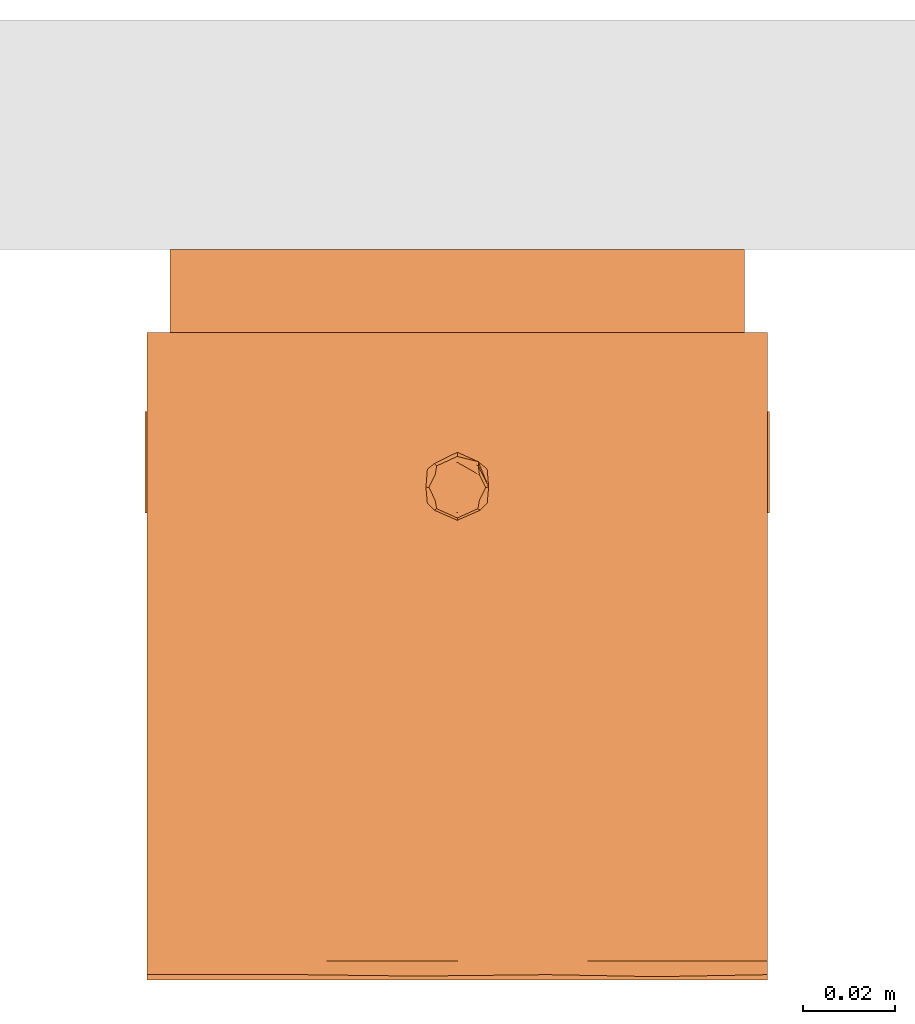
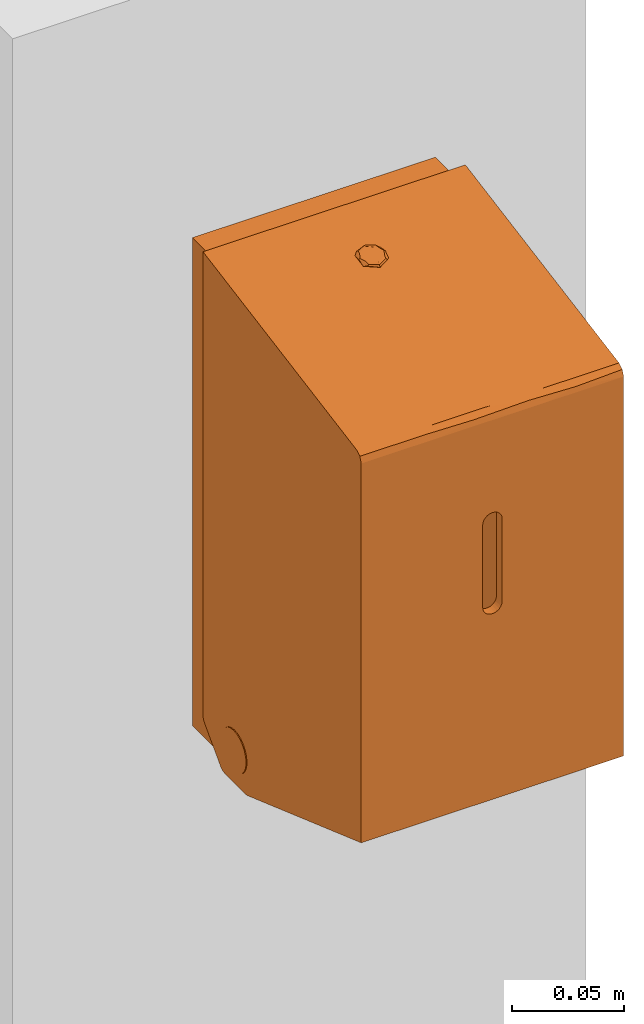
# One storey, part 2 of 2: 1 proxy.
"""IFC2X3 building model written with IfcOpenShell, lengths in millimetres."""

from ifc_helpers import new_model, entity, si_unit, converted_unit, derived_unit, direction, frame, origin, place, context, subcontext, project, spatial, faceted_brep, source, transform, mapped, material, material_list, element, save


model = new_model("IFC2X3")

# Units and contexts
model_context = context("Model", 3, precision=1e-05, world=origin(), true_north=direction((2.0, 6.12303176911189e-17, 1.0)))
context_of_model = context(None, 3, precision=1e-05, world=origin(), true_north=direction((2.0, 6.12303176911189e-17, 1.0)))
body_context = subcontext(model_context, "Body", "Model", "MODEL_VIEW")
ifc_project = project(units=[si_unit("LENGTHUNIT", "METRE", prefix="MILLI"), si_unit("AREAUNIT", "SQUARE_METRE"), si_unit("VOLUMEUNIT", "CUBIC_METRE"), converted_unit("PLANEANGLEUNIT", "DEGREE", entity("IfcRatioMeasure", 0.0174532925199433), si_unit("PLANEANGLEUNIT", "RADIAN"), dimensions=[0, 0, 0, 0, 0, 0, 0]), si_unit("MASSUNIT", "GRAM", prefix="KILO"), si_unit("TIMEUNIT", "SECOND"), si_unit("THERMODYNAMICTEMPERATUREUNIT", "KELVIN"), derived_unit("THERMALTRANSMITTANCEUNIT", [(si_unit("MASSUNIT", "GRAM", prefix="KILO"), 1), (si_unit("THERMODYNAMICTEMPERATUREUNIT", "KELVIN"), -1), (si_unit("TIMEUNIT", "SECOND"), -3)]), derived_unit("VOLUMETRICFLOWRATEUNIT", [(si_unit("LENGTHUNIT", "METRE"), 3), (si_unit("TIMEUNIT", "SECOND"), -1)]), si_unit("POWERUNIT", "WATT")], contexts=[model_context, context_of_model])

# Site, building, storey
site_placement = place(None, origin())
site = spatial("IfcSite", under=ifc_project, at=site_placement, Name="Default", CompositionType="ELEMENT")
building_placement = place(site_placement, origin())
building = spatial("IfcBuilding", under=site, at=building_placement, CompositionType="ELEMENT")
storey_placement = place(building_placement, origin())
storey = spatial("IfcBuildingStorey", under=building, at=storey_placement, Name="Level 1", CompositionType="ELEMENT", Elevation=0.0)

# Proxy
ifc_material = material(Name="Stainless Steel")
ifc_material_list = material_list([ifc_material])
shared_shape = source(origin(), body_context, "Body", "Brep", [
    faceted_brep([(0.0, -51.5096351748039, 264.401026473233), (0.0, -58.912072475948, 263.062287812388), (-6.5146929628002, -55.2108538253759, 263.731657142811), (-6.51469296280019, -47.8084165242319, 265.070395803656), (0.0, -44.1071978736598, 265.739765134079), (6.51469296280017, -55.210853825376, 263.731657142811), (6.51469296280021, -47.8084165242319, 265.070395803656), (-4.95997527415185, -46.5460456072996, 266.049238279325), (-4.82168439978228, -49.0431477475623, 266.405284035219), (0.0, -46.3037848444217, 266.900700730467), (-4.49054296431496, -47.0873695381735, 266.515203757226), (0.0, -45.7660802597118, 266.817430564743), (0.0, -45.0050055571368, 266.699568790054), (-6.83011134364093, -51.7032885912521, 265.471816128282), (-4.49054297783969, -56.3922669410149, 264.832403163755), (-4.95997532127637, -56.7360992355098, 264.206356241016), (0.0, -58.4073020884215, 264.275749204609), (-6.17864354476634, -51.7656063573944, 265.816396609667), (-4.82168439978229, -54.5218735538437, 265.414450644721), (0.0, -57.2612364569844, 264.919033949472), (4.95997526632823, -56.7360992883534, 264.20635623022), (4.58179796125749, -47.0559530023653, 266.474632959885), (4.574059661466, -46.1562989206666, 266.073114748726), (4.49054295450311, -56.3922669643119, 264.832403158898), (6.83011134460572, -51.7032886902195, 265.471816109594), (4.8216843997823, -49.0431477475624, 266.405284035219), (6.17864354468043, -51.7656063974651, 265.816396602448), (4.82168439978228, -54.5218735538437, 265.414450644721), (0.0, -51.782510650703, 265.90986733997)], [[[0, 1, 2]], [[2, 3, 0]], [[3, 4, 0]], [[0, 5, 1]], [[4, 6, 0]], [[5, 0, 6]], [[3, 7, 4]], [[8, 9, 10]], [[10, 9, 11, 12]], [[13, 10, 7]], [[14, 15, 16]], [[10, 17, 8]], [[10, 13, 17]], [[14, 17, 13]], [[1, 16, 15]], [[4, 7, 12]], [[14, 18, 17]], [[18, 14, 19]], [[15, 13, 2]], [[3, 2, 13]], [[19, 14, 16]], [[18, 8, 17]], [[13, 7, 3]], [[7, 10, 12]], [[13, 15, 14]], [[1, 15, 2]], [[5, 20, 1]], [[21, 22, 12]], [[19, 16, 23]], [[24, 23, 20]], [[25, 21, 11]], [[24, 22, 21]], [[23, 24, 26]], [[22, 24, 6]], [[4, 12, 22]], [[12, 11, 21]], [[25, 26, 21]], [[11, 9, 25]], [[27, 19, 23]], [[5, 6, 24]], [[21, 26, 24]], [[25, 27, 26]], [[23, 26, 27]], [[4, 22, 6]], [[20, 23, 16]], [[1, 20, 16]], [[24, 20, 5]], [[18, 19, 28]], [[28, 8, 18]], [[19, 27, 28]], [[25, 28, 27]], [[28, 25, 9]], [[28, 9, 8]]]),
    faceted_brep([(68.0, -36.7536458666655, 10.9451050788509), (68.0, -35.6547412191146, 13.5980955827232), (68.0, -35.2799253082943, 16.445105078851), (68.0, -35.6547412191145, 19.2921145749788), (68.0, -36.7536458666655, 21.9451050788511), (68.0, -38.5017507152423, 24.2232796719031), (68.0, -40.7799253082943, 25.9713845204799), (68.0, -43.4329158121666, 27.0702891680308), (68.0, -46.2799253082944, 27.4451050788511), (68.0, -49.1269348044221, 27.0702891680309), (68.0, -51.7799253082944, 25.9713845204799), (68.0, -54.0580999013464, 24.2232796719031), (68.0, -55.8062047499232, 21.9451050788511), (68.0, -56.9051093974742, 19.2921145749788), (68.0, -57.2799253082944, 16.4451050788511), (68.0, -56.9051093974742, 13.5980955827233), (68.0, -55.8062047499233, 10.945105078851), (68.0, -54.0580999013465, 8.66693048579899), (68.0, -51.7799253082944, 6.91882563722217), (68.0, -49.1269348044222, 5.81992098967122), (68.0, -46.2799253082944, 5.44510507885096), (68.0, -43.4329158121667, 5.8199209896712), (68.0, -40.7799253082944, 6.91882563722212), (68.0, -38.5017507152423, 8.66693048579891), (-68.0, -49.1269348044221, 27.0702891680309), (-68.0, -46.2799253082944, 27.4451050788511), (-68.0, -43.4329158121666, 27.0702891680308), (-68.0, -40.7799253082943, 25.9713845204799), (-68.0, -38.5017507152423, 24.2232796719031), (-68.0, -36.7536458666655, 21.9451050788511), (-68.0, -35.6547412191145, 19.2921145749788), (-68.0, -35.2799253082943, 16.445105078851), (-68.0, -35.6547412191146, 13.5980955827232), (-68.0, -36.7536458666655, 10.9451050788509), (-68.0, -38.5017507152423, 8.66693048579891), (-68.0, -40.7799253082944, 6.91882563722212), (-68.0, -43.4329158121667, 5.8199209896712), (-68.0, -46.2799253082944, 5.44510507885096), (-68.0, -49.1269348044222, 5.81992098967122), (-68.0, -51.7799253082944, 6.91882563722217), (-68.0, -54.0580999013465, 8.66693048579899), (-68.0, -55.8062047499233, 10.945105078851), (-68.0, -56.9051093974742, 13.5980955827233), (-68.0, -57.2799253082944, 16.4451050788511), (-68.0, -56.9051093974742, 19.2921145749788), (-68.0, -55.8062047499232, 21.9451050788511), (-68.0, -54.0580999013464, 24.2232796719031), (-68.0, -51.7799253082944, 25.9713845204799)], [[[0, 1, 2, 3, 4, 5, 6, 7, 8, 9, 10, 11, 12, 13, 14, 15, 16, 17, 18, 19, 20, 21, 22, 23]], [[24, 25, 26, 27, 28, 29, 30, 31, 32, 33, 34, 35, 36, 37, 38, 39, 40, 41, 42, 43, 44, 45, 46, 47]], [[42, 15, 14, 43]], [[41, 16, 15, 42]], [[18, 17, 40, 39]], [[41, 40, 17, 16]], [[19, 18, 39, 38]], [[20, 19, 38, 37]], [[36, 21, 20, 37]], [[35, 22, 21, 36]], [[35, 34, 23, 22]], [[34, 33, 0, 23]], [[1, 32, 31, 2]], [[32, 1, 0, 33]], [[30, 3, 2, 31]], [[29, 4, 3, 30]], [[6, 5, 28, 27]], [[29, 28, 5, 4]], [[7, 6, 27, 26]], [[25, 8, 7, 26]], [[24, 9, 8, 25]], [[12, 45, 44, 13]], [[45, 12, 11, 46]], [[13, 44, 43, 14]], [[9, 24, 47, 10]], [[10, 47, 46, 11]]]),
    faceted_brep([(-62.5, -57.8076369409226, -1.25367202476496), (-67.5, -57.8076369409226, -1.25367202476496), (-67.5, -56.9877050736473, -1.46694307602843), (-62.5, -56.9877050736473, -1.46694307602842), (67.5, -57.8076369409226, -1.25367202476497), (62.5, -57.8076369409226, -1.25367202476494), (62.5, -56.9877050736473, -1.46694307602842), (67.5, -56.9877050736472, -1.46694307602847), (-67.5, -56.1435363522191, -1.5387203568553), (-62.5, -56.1435363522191, -1.5387203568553), (62.5, -56.1435363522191, -1.5387203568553), (67.5, -56.143536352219, -1.5387203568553), (67.5, -159.0, 240.784425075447), (67.5, -159.0, 34.4612796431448), (67.5, -37.3989976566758, -1.5387203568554), (67.5, -35.4376713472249, -1.13798107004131), (67.5, -33.7907372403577, 0.0), (67.5, -19.3917395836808, 15.0104408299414), (67.5, -18.3609644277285, 16.606419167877), (67.5, -18.0, 18.471720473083), (67.5, -18.0, 265.461279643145), (67.5, -18.0, 270.461279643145), (67.5, -154.889820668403, 245.704609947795), (67.5, -157.837258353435, 243.989959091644), (-67.5, -159.0, 240.784425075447), (-67.5, -157.837258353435, 243.989959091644), (-67.5, -154.889820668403, 245.704609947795), (-67.5, -18.0, 270.461279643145), (-67.5, -18.0, 265.461279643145), (-67.5, -18.0, 18.471720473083), (-67.5, -18.3609644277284, 16.606419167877), (-67.5, -19.3917395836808, 15.0104408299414), (-67.5, -33.7907372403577, 0.0), (-67.5, -35.4376713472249, -1.13798107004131), (-67.5, -37.3989976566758, -1.53872035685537), (-67.5, -159.0, 34.4612796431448), (-28.4615560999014, -154.889820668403, 245.704609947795), (0.0, -154.889820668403, 245.704609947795), (28.4615560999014, -154.889820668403, 245.704609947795), (-28.4615550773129, -159.0, 240.784425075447), (-34.0515026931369, -157.83725826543, 243.989959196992), (43.5096123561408, -158.272715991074, 243.381326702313), (19.5192246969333, -157.837258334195, 243.989959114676), (28.4615558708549, -159.0, 240.784425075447), (10.5768890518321, -159.0, 240.784425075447), (-8.94232993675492, -158.150480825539, 243.572526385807), (4.8296291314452, -159.0, 186.755374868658), (5.0, -159.0, 185.461279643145), (4.33012701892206, -159.0, 187.961279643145), (5.0, -159.0, 140.461279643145), (3.5355339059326, -159.0, 188.996813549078), (2.49999999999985, -159.0, 189.791406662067), (1.29409522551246, -159.0, 190.29090877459), (0.0, -159.0, 190.461279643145), (-1.29409522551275, -159.0, 190.29090877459), (-2.50000000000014, -159.0, 189.791406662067), (-3.53553390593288, -159.0, 188.996813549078), (-4.33012701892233, -159.0, 187.961279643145), (-4.82962913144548, -159.0, 186.755374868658), (-5.0, -159.0, 185.461279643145), (-5.0, -159.0, 140.461279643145), (0.0, -159.0, 135.461279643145), (-4.82962913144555, -159.0, 139.167184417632), (-4.3301270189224, -159.0, 137.961279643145), (-3.53553390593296, -159.0, 136.925745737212), (-2.50000000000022, -159.0, 136.131152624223), (-1.29409522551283, -159.0, 135.6316505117), (1.29409522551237, -159.0, 135.6316505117), (4.82962913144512, -159.0, 139.167184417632), (4.33012701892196, -159.0, 137.961279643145), (3.5355339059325, -159.0, 136.925745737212), (2.49999999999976, -159.0, 136.131152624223), (-62.5, -154.0, 32.6965737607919), (62.5, -154.0, 32.6965737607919), (62.5, -42.3989976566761, -1.53872035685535), (-62.5, -42.3989976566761, -1.53872035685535), (-47.9807771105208, -37.3989976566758, -1.53872035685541), (-33.75, -37.3989976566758, -1.53872035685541), (-16.875, -37.3989976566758, -1.53872035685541), (0.0, -37.3989976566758, -1.53872035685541), (16.875, -37.3989976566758, -1.53872035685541), (33.75, -37.3989976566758, -1.53872035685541), (47.9807787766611, -37.3989976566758, -1.53872035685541), (-2.0188000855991, -35.2829526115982, -1.06888076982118), (26.8393809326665, -35.6960653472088, -1.23978635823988), (40.8653903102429, -35.4376713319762, -1.13798106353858), (-39.0384451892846, -33.7907372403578, 0.0), (-43.5096064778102, -35.4376714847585, -1.13798112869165), (-47.9807782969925, -33.7907372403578, 0.0), (-17.6922740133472, -35.3256756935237, -1.0885924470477), (54.1826951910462, -35.1411256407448, -0.999887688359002), (-30.6748780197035, -35.1036907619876, -0.980743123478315), (-24.8076660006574, -33.7907372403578, 0.0), (12.8095355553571, -35.4412163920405, -1.13949121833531), (28.4615565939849, -33.7907372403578, 0.0), (47.9807782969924, -33.7907372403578, 0.0), (-10.5768868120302, -33.7907372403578, 0.0), (8.94233489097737, -33.7907372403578, 0.0), (-47.98077703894, -19.3917395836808, 15.0104408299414), (-28.4615557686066, -19.3917395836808, 15.0104408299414), (-10.5768884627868, -19.3917395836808, 15.0104408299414), (8.94233449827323, -19.3917395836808, 15.0104408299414), (28.4615557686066, -19.3917395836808, 15.0104408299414), (47.98077703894, -19.3917395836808, 15.0104408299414), (-26.1498918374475, -18.312156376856, 16.7327201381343), (-12.1020109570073, -18.3415108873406, 16.6555488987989), (-40.8653848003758, -18.3609644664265, 16.6064190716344), (-54.1826922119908, -18.4550598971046, 16.3876092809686), (-33.75, -18.0, 18.4717204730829), (52.5784534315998, -18.360964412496, 16.6064192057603), (-47.9807787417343, -18.0, 18.4717204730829), (38.2211677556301, -18.3609643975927, 16.6064192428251), (18.7019470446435, -18.3609644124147, 16.6064192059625), (47.9807766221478, -18.0, 18.4717204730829), (28.4615553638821, -18.0, 18.4717204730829), (-16.8750010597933, -18.0, 18.4717204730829), (0.0, -18.0, 18.4717204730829), (4.38440897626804, -18.3624612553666, 16.6027008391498), (14.2307787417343, -18.0, 18.4717204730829), (62.5, -23.0, 18.4717204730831), (62.5, -37.3989976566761, 3.46127964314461), (62.5, -154.0, 240.784425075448), (62.5, -23.0, 264.475914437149), (-62.5, -37.3989976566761, 3.46127964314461), (-62.5, -23.0, 18.4717204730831), (-62.5, -23.0, 264.475914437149), (-62.5, -154.0, 240.784425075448), (5.0, -154.0, 185.461279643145), (4.8296291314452, -154.0, 186.755374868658), (5.0, -154.0, 140.461279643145), (4.33012701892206, -154.0, 187.961279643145), (3.5355339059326, -154.0, 188.996813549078), (2.49999999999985, -154.0, 189.791406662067), (1.29409522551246, -154.0, 190.29090877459), (0.0, -154.0, 190.461279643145), (-1.29409522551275, -154.0, 190.29090877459), (-2.50000000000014, -154.0, 189.791406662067), (-3.53553390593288, -154.0, 188.996813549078), (-4.33012701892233, -154.0, 187.961279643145), (-4.82962913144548, -154.0, 186.755374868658), (-5.0, -154.0, 185.461279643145), (-5.0, -154.0, 140.461279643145), (-4.82962913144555, -154.0, 139.167184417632), (-4.33012701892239, -154.0, 137.961279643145), (-3.53553390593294, -154.0, 136.925745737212), (-2.50000000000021, -154.0, 136.131152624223), (-1.29409522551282, -154.0, 135.6316505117), (0.0, -154.0, 135.461279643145), (1.29409522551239, -154.0, 135.6316505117), (2.49999999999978, -154.0, 136.131152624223), (3.53553390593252, -154.0, 136.925745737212), (4.33012701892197, -154.0, 137.961279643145), (4.82962913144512, -154.0, 139.167184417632)], [[[0, 1, 2, 3]], [[4, 5, 6, 7]], [[2, 8, 9, 3]], [[6, 10, 11, 7]], [[12, 13, 4, 7, 11, 14, 15, 16, 17, 18, 19, 20, 21, 22, 23]], [[24, 25, 26, 27, 28, 29, 30, 31, 32, 33, 34, 8, 2, 1, 35]], [[22, 21, 27, 26, 36, 37, 38]], [[24, 39, 40]], [[22, 38, 41]], [[41, 38, 42]], [[43, 42, 44]], [[45, 39, 44]], [[36, 40, 45]], [[39, 45, 40]], [[26, 25, 40]], [[41, 42, 43]], [[44, 42, 45]], [[12, 23, 41]], [[37, 42, 38]], [[42, 37, 45]], [[36, 45, 37]], [[12, 41, 43]], [[41, 23, 22]], [[26, 40, 36]], [[24, 40, 25]], [[12, 46, 47]], [[46, 12, 48]], [[12, 47, 49]], [[50, 48, 12]], [[51, 50, 12]], [[52, 51, 12]], [[12, 53, 52]], [[49, 13, 12]], [[53, 12, 43]], [[53, 43, 44]], [[53, 44, 39]], [[53, 39, 24]], [[54, 53, 24]], [[55, 54, 24]], [[24, 56, 55]], [[56, 24, 57]], [[58, 57, 24]], [[24, 59, 58]], [[59, 24, 60]], [[24, 35, 60]], [[13, 61, 35]], [[35, 62, 60]], [[62, 35, 63]], [[64, 63, 35]], [[64, 35, 65]], [[66, 65, 35]], [[66, 35, 61]], [[67, 61, 13]], [[49, 68, 13]], [[69, 13, 68]], [[13, 69, 70]], [[70, 71, 13]], [[71, 67, 13]], [[13, 35, 1, 0, 72, 73, 5, 4]], [[11, 10, 74, 75, 9, 8, 34, 76, 77, 78, 79, 80, 81, 82, 14]], [[83, 79, 78]], [[84, 85, 81]], [[86, 87, 88]], [[33, 32, 88]], [[78, 89, 83]], [[16, 15, 90]], [[89, 91, 92]], [[93, 79, 83]], [[85, 90, 82]], [[14, 82, 90]], [[82, 81, 85]], [[92, 91, 86]], [[80, 93, 84]], [[76, 34, 33]], [[94, 95, 85]], [[94, 85, 84]], [[90, 85, 95]], [[87, 76, 33]], [[88, 87, 33]], [[77, 76, 87]], [[92, 96, 89]], [[89, 96, 83]], [[77, 87, 91]], [[77, 89, 78]], [[96, 97, 83]], [[93, 83, 97]], [[94, 93, 97]], [[79, 93, 80]], [[80, 84, 81]], [[94, 84, 93]], [[77, 91, 89]], [[86, 91, 87]], [[16, 90, 95]], [[90, 15, 14]], [[16, 95, 94, 97, 96, 92, 86, 88, 32, 31, 98, 99, 100, 101, 102, 103, 17]], [[104, 105, 100]], [[104, 99, 106]], [[31, 107, 98]], [[104, 106, 108]], [[19, 18, 109]], [[29, 110, 107]], [[108, 106, 110]], [[103, 111, 109]], [[111, 103, 102]], [[104, 100, 99]], [[109, 17, 103]], [[101, 112, 102]], [[113, 111, 114]], [[31, 30, 107]], [[106, 98, 107]], [[106, 107, 110]], [[99, 98, 106]], [[108, 115, 104]], [[104, 115, 105]], [[115, 116, 105]], [[117, 118, 112]], [[105, 117, 100]], [[107, 30, 29]], [[111, 113, 109]], [[112, 111, 102]], [[112, 101, 117]], [[111, 112, 114]], [[19, 109, 113]], [[118, 114, 112]], [[17, 109, 18]], [[100, 117, 101]], [[105, 116, 117]], [[118, 117, 116]], [[20, 19, 113, 114, 118, 116, 115, 108, 110, 29, 28, 27, 21]], [[119, 120, 74, 10, 6, 5, 73, 121, 122]], [[9, 75, 123, 124, 125, 126, 72, 0, 3]], [[127, 128, 121]], [[129, 127, 121]], [[130, 121, 128]], [[121, 130, 131]], [[121, 131, 132]], [[121, 132, 133]], [[133, 134, 121]], [[126, 121, 134]], [[126, 134, 135]], [[126, 135, 136]], [[136, 137, 126]], [[138, 126, 137]], [[126, 138, 139]], [[139, 140, 126]], [[141, 126, 140]], [[141, 72, 126]], [[141, 142, 72]], [[143, 72, 142]], [[72, 143, 144]], [[145, 72, 144]], [[72, 145, 146]], [[147, 72, 146]], [[72, 147, 73]], [[73, 147, 148]], [[73, 148, 149]], [[73, 149, 150]], [[150, 151, 73]], [[152, 73, 151]], [[73, 152, 129]], [[121, 73, 129]], [[124, 123, 120, 119]], [[124, 119, 122, 125]], [[125, 122, 121, 126]], [[75, 74, 120, 123]], [[129, 49, 47, 127]], [[48, 130, 128, 46]], [[46, 128, 127, 47]], [[52, 133, 132, 51]], [[51, 132, 131, 50]], [[50, 131, 130, 48]], [[133, 52, 53, 134]], [[56, 137, 136, 55]], [[55, 136, 135, 54]], [[59, 140, 139, 58]], [[58, 139, 138, 57]], [[57, 138, 137, 56]], [[134, 53, 54, 135]], [[141, 140, 59, 60]], [[63, 143, 142, 62]], [[62, 142, 141, 60]], [[66, 146, 145, 65]], [[65, 145, 144, 64]], [[64, 144, 143, 63]], [[146, 66, 61, 147]], [[70, 150, 149, 71]], [[71, 149, 148, 67]], [[49, 129, 152, 68]], [[68, 152, 151, 69]], [[69, 151, 150, 70]], [[147, 61, 67, 148]]]),
    faceted_brep([(62.5, 0.0, 0.0), (62.5, 0.0, 265.461279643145), (62.5, -18.0, 265.461279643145), (62.5, -18.0, 18.4717204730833), (62.5, -18.3609644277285, 16.6064191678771), (62.5, -19.391739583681, 15.0104408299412), (62.5, -33.7907372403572, 0.0), (-62.5, -19.391739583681, 15.0104408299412), (-62.5, -18.3609644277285, 16.6064191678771), (-62.5, -18.0, 18.4717204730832), (-62.5, -18.0, 265.461279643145), (-62.5, 0.0, 265.461279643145), (-62.5, 0.0, 0.0), (-62.5, -33.7907372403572, 0.0), (-42.9807778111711, -18.0, 18.4717204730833), (-23.4615556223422, -18.0, 18.4717204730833), (-3.94233343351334, -18.0, 18.4717204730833), (15.5768887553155, -18.0, 18.4717204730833), (39.0384443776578, -18.0, 18.4717204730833), (52.7403889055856, -18.0, 18.4717204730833), (31.25, -19.391739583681, 15.0104408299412), (42.9807779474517, -19.391739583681, 15.0104408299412), (37.115390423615, -18.3911370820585, 16.5330656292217), (-33.2211617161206, -18.3609644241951, 16.6064191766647), (-19.9478449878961, -18.3212958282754, 16.7082785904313), (-6.73303819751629, -18.3980179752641, 16.516787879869), (-23.4615555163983, -19.391739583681, 15.0104408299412), (-42.9807777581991, -19.391739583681, 15.0104408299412), (7.81250296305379, -18.3616869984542, 16.6046231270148), (49.8607386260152, -18.513755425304, 16.2640951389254), (15.625, -19.391739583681, 15.0104408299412), (22.4814457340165, -18.3280500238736, 16.6904615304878), (-47.5784439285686, -18.3609643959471, 16.606419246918), (0.0, -19.391739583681, 15.0104408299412)], [[[0, 1, 2, 3, 4, 5, 6]], [[7, 8, 9, 10, 11, 12, 13]], [[2, 1, 11, 10]], [[2, 10, 9, 14, 15, 16, 17, 18, 19, 3]], [[20, 21, 22]], [[15, 14, 23]], [[3, 19, 4]], [[24, 25, 16]], [[26, 23, 27]], [[17, 16, 28]], [[29, 22, 21]], [[25, 28, 16]], [[29, 4, 19]], [[30, 20, 31]], [[32, 23, 14]], [[22, 18, 31]], [[32, 14, 9]], [[32, 8, 7]], [[29, 21, 5]], [[30, 28, 33]], [[18, 29, 19]], [[30, 31, 28]], [[25, 33, 28]], [[17, 28, 31]], [[17, 31, 18]], [[20, 22, 31]], [[25, 26, 33]], [[24, 23, 26]], [[18, 22, 29]], [[4, 29, 5]], [[32, 27, 23]], [[15, 23, 24]], [[27, 32, 7]], [[8, 32, 9]], [[15, 24, 16]], [[25, 24, 26]], [[6, 5, 21, 20, 30, 33, 26, 27, 7, 13]], [[0, 6, 13, 12]], [[1, 0, 12, 11]]]),
])
proxy_placement = place(storey_placement, frame((1414.01757173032, 3952.698533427, -80.0846490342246)))
element("IfcBuildingElementProxy", 1, at=proxy_placement, inside=storey, material=ifc_material_list, Name="BC850:BC850 Dolphin Toilet Roll Holder (Special Roll Type)", ObjectType="BC850 Dolphin Toilet Roll Holder (Special Roll Type)", CompositionType="ELEMENT", context=body_context, shape_type="MappedRepresentation", body=[
    mapped(shared_shape, transform((0.0, 0.0, 0.0), scale=1.0)),
])

save(model, "model.ifc")
